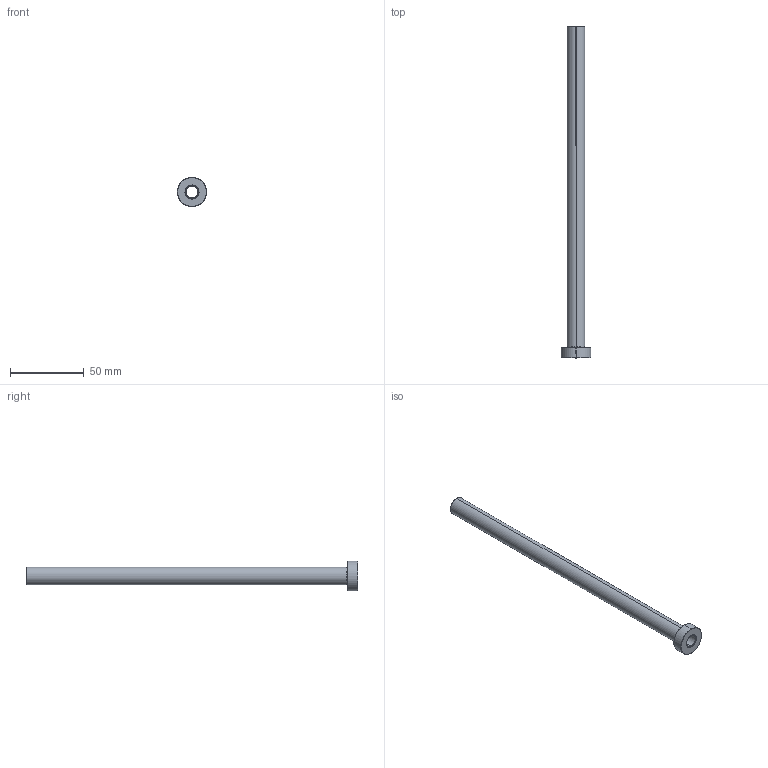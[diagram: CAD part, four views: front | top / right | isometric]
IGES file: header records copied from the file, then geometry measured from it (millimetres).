
Start section: SolidWorks IGES file using analytic representation for surfaces
Global section: file name: C:\Users\365admin\AppData\Local\Temp\InFlowConvert3DWorking\ESD08L225.igs; native system: SolidWorks 2019; preprocessor: SolidWorks 2019; author: 365admin; date: 220204.182303; units: millimetre
Bounding box: 20 x 225 x 20 mm (x, y, z)
Surface area: 15077.5 mm2 (no closed solid volume)
Topology: 0 solids, 0 shells, 21 faces, 264 edges, 264 vertices
Faces by surface type: revolution 16, bspline 5
